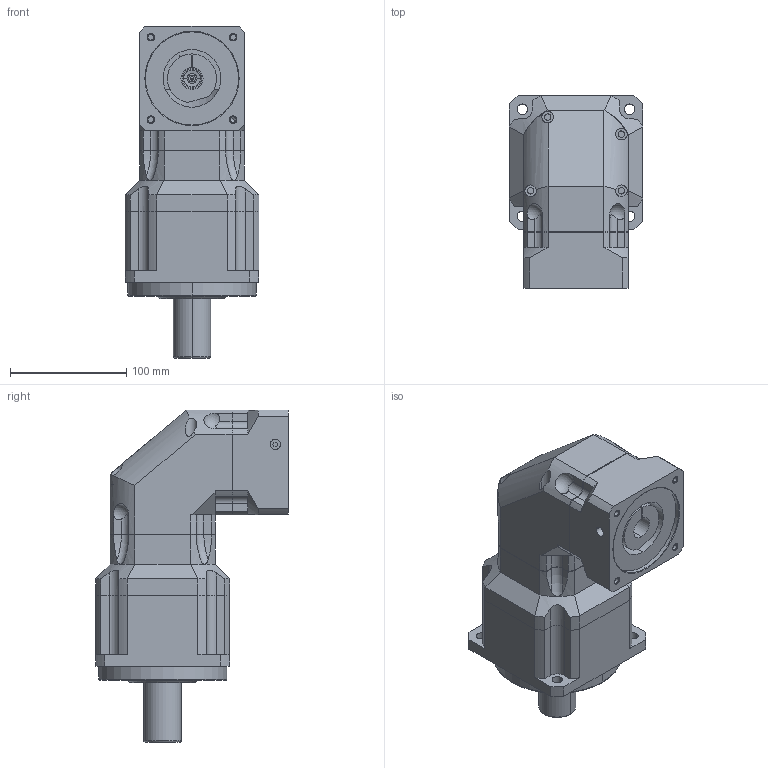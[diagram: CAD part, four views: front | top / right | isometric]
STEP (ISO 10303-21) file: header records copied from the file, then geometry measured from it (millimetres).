
FILE_DESCRIPTION((''),'2;1');
FILE_NAME('ABR1152-P4030101_ASM','2006-03-16T',('D00036'),(''),'PRO/ENGINEER BY PARAMETRIC TECHNOLOGY CORPORATION, 2001280','PRO/ENGINEER BY PARAMETRIC TECHNOLOGY CORPORATION, 2001280','');
FILE_SCHEMA(('CONFIG_CONTROL_DESIGN'));
Length unit declared in the file: millimetre
Products named in the file (5): AB1152_AF1; AB1152-1_AF1; PD030001; P4030101; ABR1152-P4030101_ASM
Assembly tree (4 placements, depth 2):
  ABR1152-P4030101_ASM
    AB1152_AF1
    AB1152-1_AF1
    PD030001
    P4030101
Bounding box: 115 x 165.5 x 285 mm (x, y, z)
Volume: 2029478.2 mm3; surface area: 227909.8 mm2
Topology: 5 solids, 16 shells, 492 faces, 1200 edges, 740 vertices
Faces by surface type: cylinder 186, plane 178, cone 96, torus 24, bspline 4, sphere 4
Entity records: 15298 total; most frequent: CARTESIAN_POINT 3456, DIRECTION 2597, ORIENTED_EDGE 2324, EDGE_CURVE 1186, AXIS2_PLACEMENT_3D 1023, VERTEX_POINT 740, VECTOR 551, LINE 551
